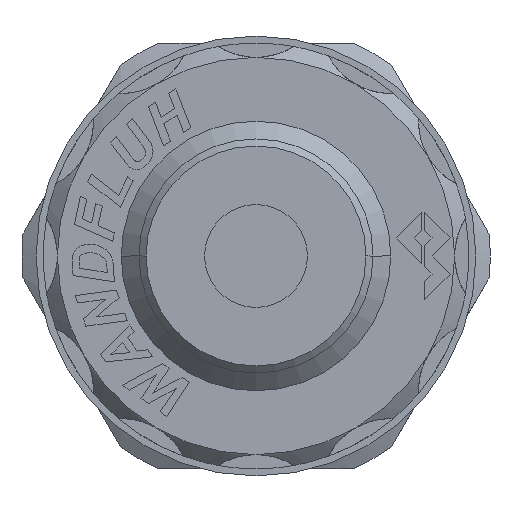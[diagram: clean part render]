
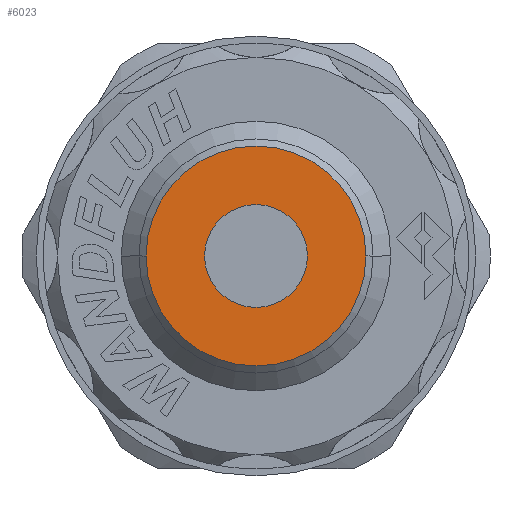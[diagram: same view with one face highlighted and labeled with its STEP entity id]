
A CAD part, left-side view. The second image highlights one B-rep face of the part: STEP entity #6023.
In plain terms, the highlighted planar face has unit normal (-1, 0, 0).
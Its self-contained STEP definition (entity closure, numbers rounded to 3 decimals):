
#932 = CARTESIAN_POINT ( 'NONE',  ( -70.9, 0., 0. ) ) ;
#933 = DIRECTION ( 'NONE',  ( -1., 0., 0. ) ) ;
#934 = DIRECTION ( 'NONE',  ( 0., -1., 0. ) ) ;
#941 = CARTESIAN_POINT ( 'NONE',  ( -70.9, 0., 0. ) ) ;
#942 = DIRECTION ( 'NONE',  ( -1., 0., 0. ) ) ;
#943 = DIRECTION ( 'NONE',  ( 0., -1., 0. ) ) ;
#1105 = CARTESIAN_POINT ( 'NONE',  ( -70.9, 0., 0. ) ) ;
#1106 = DIRECTION ( 'NONE',  ( -1., 0., 0. ) ) ;
#1107 = DIRECTION ( 'NONE',  ( 0., -1., 0. ) ) ;
#1215 = CARTESIAN_POINT ( 'NONE',  ( -70.9, 0., 0. ) ) ;
#1216 = DIRECTION ( 'NONE',  ( -1., 0., 0. ) ) ;
#1217 = DIRECTION ( 'NONE',  ( 0., -1., 0. ) ) ;
#1779 = PLANE ( 'NONE',  #19301 ) ;
#1801 = CARTESIAN_POINT ( 'NONE',  ( -70.9, 0., 3.625 ) ) ;
#1834 = DIRECTION ( 'NONE',  ( 0., -1., 0. ) ) ;
#1849 = DIRECTION ( 'NONE',  ( -1., 0., 0. ) ) ;
#2367 = FACE_BOUND ( 'NONE', #2618, .T. ) ;
#2585 = VERTEX_POINT ( 'NONE', #11741 ) ;
#2597 = VERTEX_POINT ( 'NONE', #11852 ) ;
#2618 = EDGE_LOOP ( 'NONE', ( #7688, #7685 ) ) ;
#2750 = EDGE_LOOP ( 'NONE', ( #7690, #7687 ) ) ;
#4768 = AXIS2_PLACEMENT_3D ( 'NONE', #1215, #1216, #1217 ) ;
#4783 = AXIS2_PLACEMENT_3D ( 'NONE', #1105, #1106, #1107 ) ;
#4817 = AXIS2_PLACEMENT_3D ( 'NONE', #941, #942, #943 ) ;
#4820 = AXIS2_PLACEMENT_3D ( 'NONE', #932, #933, #934 ) ;
#6023 = ADVANCED_FACE ( 'NONE', ( #17653, #2367 ), #1779, .T. ) ;
#7685 = ORIENTED_EDGE ( 'NONE', *, *, #12476, .F. ) ;
#7687 = ORIENTED_EDGE ( 'NONE', *, *, #12438, .T. ) ;
#7688 = ORIENTED_EDGE ( 'NONE', *, *, #12385, .F. ) ;
#7690 = ORIENTED_EDGE ( 'NONE', *, *, #12381, .T. ) ;
#9562 = CIRCLE ( 'NONE', #4820, 7.75 ) ;
#9566 = CIRCLE ( 'NONE', #4817, 3.625 ) ;
#9663 = CIRCLE ( 'NONE', #4783, 7.75 ) ;
#9725 = CIRCLE ( 'NONE', #4768, 3.625 ) ;
#11741 = CARTESIAN_POINT ( 'NONE',  ( -70.9, 3.625, 0. ) ) ;
#11852 = CARTESIAN_POINT ( 'NONE',  ( -70.9, -3.625, 0. ) ) ;
#12381 = EDGE_CURVE ( 'NONE', #16514, #16640, #9562, .T. ) ;
#12385 = EDGE_CURVE ( 'NONE', #2597, #2585, #9566, .T. ) ;
#12438 = EDGE_CURVE ( 'NONE', #16640, #16514, #9663, .T. ) ;
#12476 = EDGE_CURVE ( 'NONE', #2585, #2597, #9725, .T. ) ;
#15631 = CARTESIAN_POINT ( 'NONE',  ( -70.9, 7.75, 0. ) ) ;
#15792 = CARTESIAN_POINT ( 'NONE',  ( -70.9, -7.75, 0. ) ) ;
#16514 = VERTEX_POINT ( 'NONE', #15631 ) ;
#16640 = VERTEX_POINT ( 'NONE', #15792 ) ;
#17653 = FACE_OUTER_BOUND ( 'NONE', #2750, .T. ) ;
#19301 = AXIS2_PLACEMENT_3D ( 'NONE', #1801, #1849, #1834 ) ;
